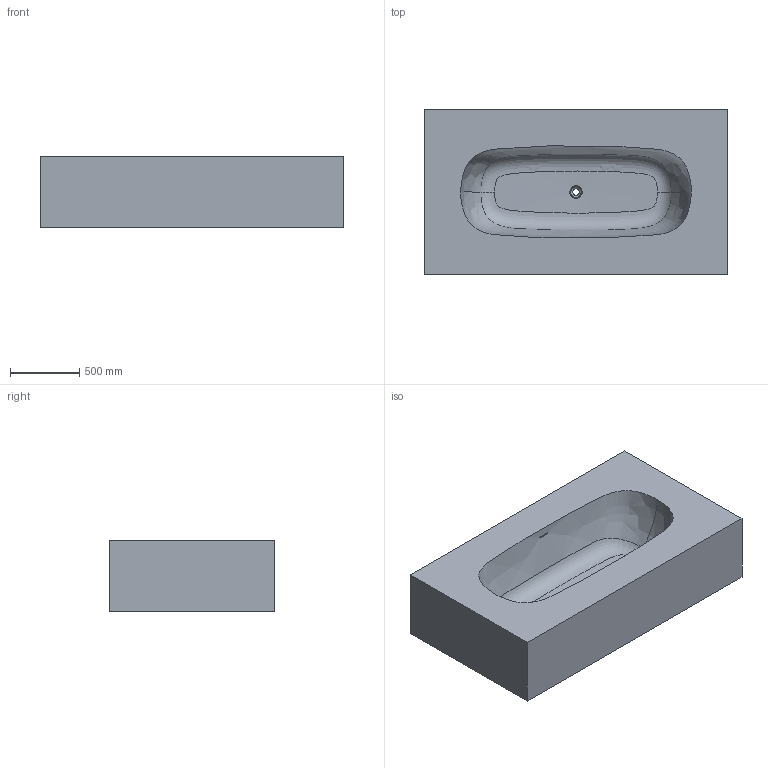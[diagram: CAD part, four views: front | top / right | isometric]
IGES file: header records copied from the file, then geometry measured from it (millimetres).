
Start section: Data from Parasolid IGES Translator 22.0.50, Copyright(c) 2006 Siemens P LM Software. All Rights Reserved.
Global section: file name: noorth-bathtub-H52 D75-120 W175-220_5667.igs; native system: By Siemens PLM Incorporated; preprocessor: XPlus GENERIC/IGES 22.0.50; author: Noname; organization: Noname; date: 20250706.161901; units: metre
Bounding box: 2200 x 1200 x 520 mm (x, y, z)
Volume: 136391433.3 mm3; surface area: 14951039.7 mm2
Topology: 1 solids, 1 shells, 175 faces, 437 edges, 264 vertices
Faces by surface type: bspline 119, plane 37, cone 9, cylinder 9, torus 1
Full cylindrical faces by diameter (mm): 49.885 x1
